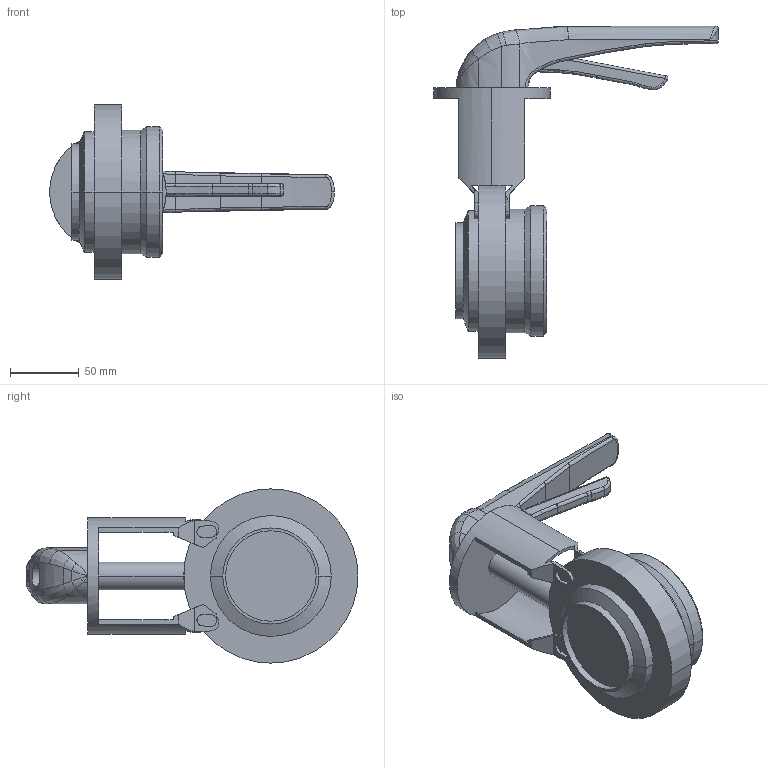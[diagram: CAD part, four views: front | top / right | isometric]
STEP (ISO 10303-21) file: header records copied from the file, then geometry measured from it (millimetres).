
FILE_DESCRIPTION(('Creo Elements/Direct Modeling STEP Export'),'2;1');
FILE_NAME('SV1-65-1S-2G-HL.stp','2017-02-20T16:24:23',(''),(''),'PTC Creo Elements/Direct Modeling STEP processor for AP214 (Solid Model)','PTC Creo Elements/Direct Modeling 19.0B 21-Mar-2015 (C) Parametric Technology GmbH','');
FILE_SCHEMA(('AUTOMOTIVE_DESIGN { 1 0 10303 214 1 1 1 1 }'));
Length unit declared in the file: millimetre
Products named in the file (4): SV1-65-1S-2G; SV_Laterne_HL_65_100; Handhebel_SV; SV1-65-1S-2G-HL
Assembly tree (3 placements, depth 2):
  SV1-65-1S-2G-HL
    Handhebel_SV
    SV_Laterne_HL_65_100
    SV1-65-1S-2G
Bounding box: 207.53 x 241.9 x 127 mm (x, y, z)
Volume: 716320.4 mm3; surface area: 105855.9 mm2
Topology: 3 solids, 3 shells, 293 faces, 762 edges, 486 vertices
Faces by surface type: plane 158, cylinder 51, bspline 34, extrusion 32, torus 10, cone 6, sphere 2
Entity records: 24701 total; most frequent: CARTESIAN_POINT 17462, ORIENTED_EDGE 1516, DIRECTION 1133, EDGE_CURVE 758, VERTEX_POINT 486, VECTOR 423, LINE 391, AXIS2_PLACEMENT_3D 355
